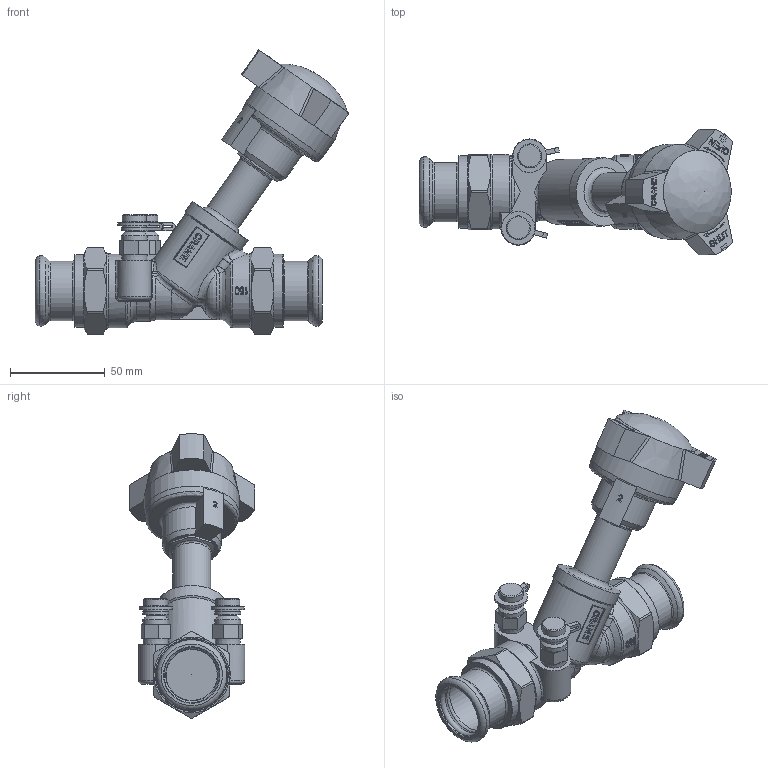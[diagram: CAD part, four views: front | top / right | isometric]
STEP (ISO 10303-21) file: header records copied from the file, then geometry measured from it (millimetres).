
FILE_DESCRIPTION((''),'2;1');
FILE_NAME('P:\Fastrack\53972_CRANE 3D\Push Fit\D931\D931-PF_28mm\D931-PF_28mm.stp','2011-08-24T11:00:05',('btaylor'),(''),'Autodesk Inventor 2008','Autodesk Inventor 2008','');
FILE_SCHEMA(('AUTOMOTIVE_DESIGN { 1 0 10303 214 1 1 1 1 }'));
Length unit declared in the file: millimetre
Products named in the file (1): D931-PF_28mm
Bounding box: 165.5 x 66.44 x 149.98 mm (x, y, z)
Volume: 250129.1 mm3; surface area: 51829.8 mm2
Topology: 1 solids, 3 shells, 844 faces, 2226 edges, 1450 vertices
Faces by surface type: plane 341, bspline 337, cylinder 93, cone 53, torus 18, sphere 2
Full cylindrical faces by diameter (mm): 7.4 x2, 11 x2, 12.7 x2, 13.7 x2, 20 x1, 28.25 x2, 29.25 x2, 31.4 x2, 36 x1, 38.5 x2, 39 x2, 50 x1
Entity records: 73749 total; most frequent: CARTESIAN_POINT 55554, ORIENTED_EDGE 4250, DIRECTION 2662, EDGE_CURVE 2125, VERTEX_POINT 1419, VECTOR 984, LINE 984, EDGE_LOOP 978
